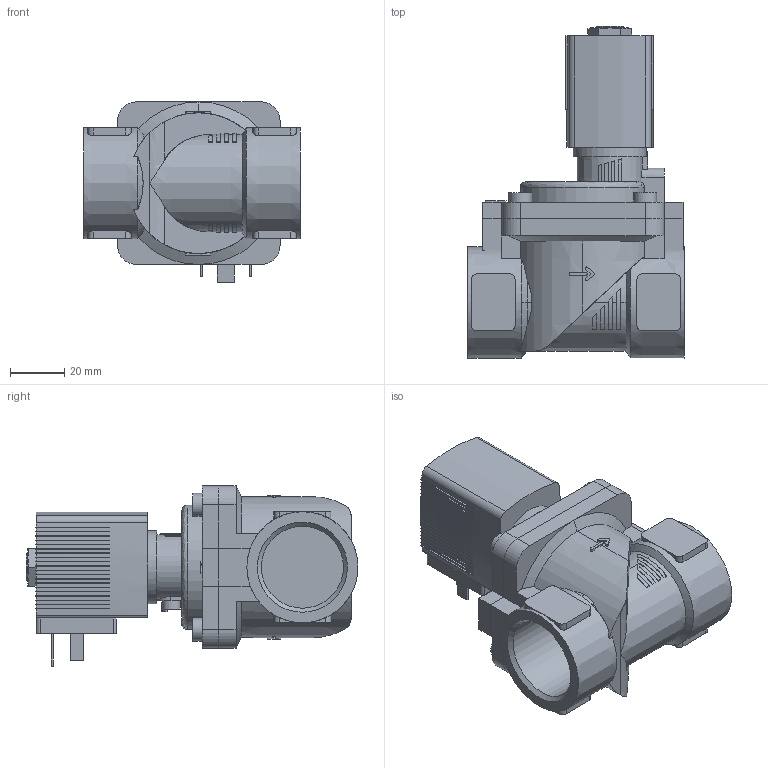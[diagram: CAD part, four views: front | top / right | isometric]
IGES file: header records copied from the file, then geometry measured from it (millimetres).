
Start section: Data from Parasolid IGES Translator 26.0.171, Copyright(c) 2006 Siemens PLM Software. All Rights Reserved.
Global section: file name: 6281-316343-2_2-Way_Solenoid_Valve__Servo-assisted__General_Purpose.igs; native system: By Siemens PLM Incorporated; preprocessor: XPlus GENERIC/IGES 26.0.171; author: Noname; organization: Noname; date: 20240520.130855; units: millimetre
Bounding box: 80 x 122.5 x 66.5 mm (x, y, z)
Surface area: 47151.1 mm2 (no closed solid volume)
Topology: 0 solids, 0 shells, 568 faces, 3146 edges, 3126 vertices
Faces by surface type: extrusion 442, revolution 126
